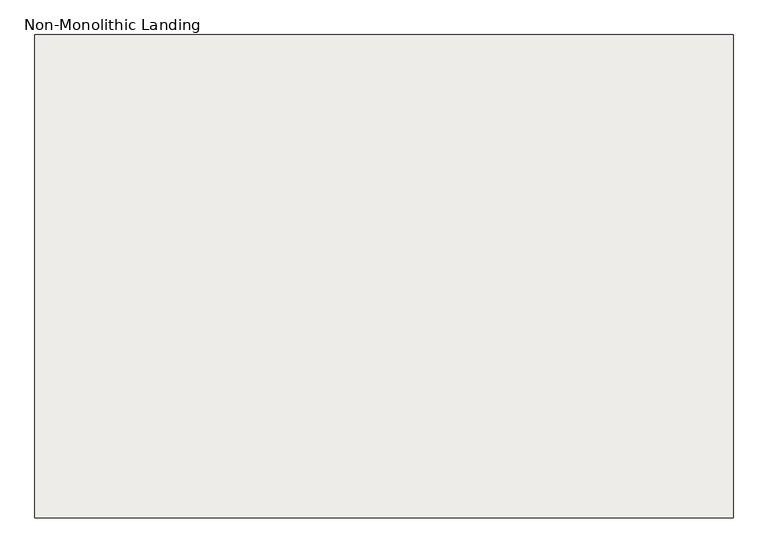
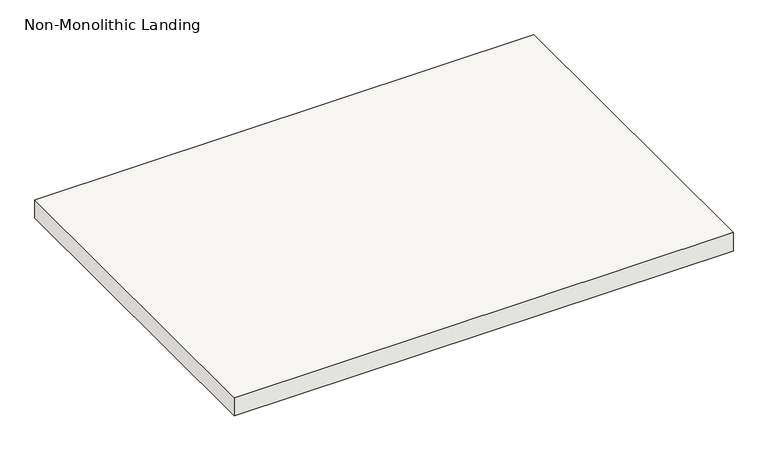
"""IFC4 building model written with IfcOpenShell, lengths in millimetres: slab geometry, Non-Monolithic Landing."""

from ifc_helpers import new_model, si_unit, frame, origin, place, context, project, spatial, polyline, outline, extrude, source, transform, mapped, element, save


def non_monolithic_landing_f27b7801(model_context):
    return source(origin(), model_context, "Body", "SweptSolid", [
        extrude(outline(polyline([(112302.1786089, 33228.3530185), (113622.9786089, 33228.3530185), (113622.9786089, 32313.9530185), (112302.1786089, 32313.9530185), (112302.1786089, 33228.3530185)])), frame((0.0, 0.0, 2126.3428571), z_axis=(0.0, 0.0, 1.0), x_axis=(1.0, 0.0, 0.0)), (0.0, 0.0, 1.0), 50.8),
    ])


if __name__ == "__main__":
    model = new_model("IFC4")
    model_context = context("Model", 3, world=origin())
    ifc_project = project(units=[si_unit("LENGTHUNIT", "METRE", prefix="MILLI")], contexts=[model_context])
    site = spatial("IfcSite", under=ifc_project)
    building = spatial("IfcBuilding", under=site)
    placement = place(None, origin())
    non_monolithic_landing_shape = non_monolithic_landing_f27b7801(model_context)
    element("IfcSlab", 1, ObjectType="Non-Monolithic Landing", at=placement, inside=building, context=model_context, shape_type="MappedRepresentation", body=[
        mapped(non_monolithic_landing_shape, transform((0.0, 0.0, 0.0), x_axis=(1.0, 0.0, 0.0), y_axis=(0.0, 1.0, 0.0), z_axis=(0.0, 0.0, 1.0))),
    ])
    save(model, "model.ifc")
